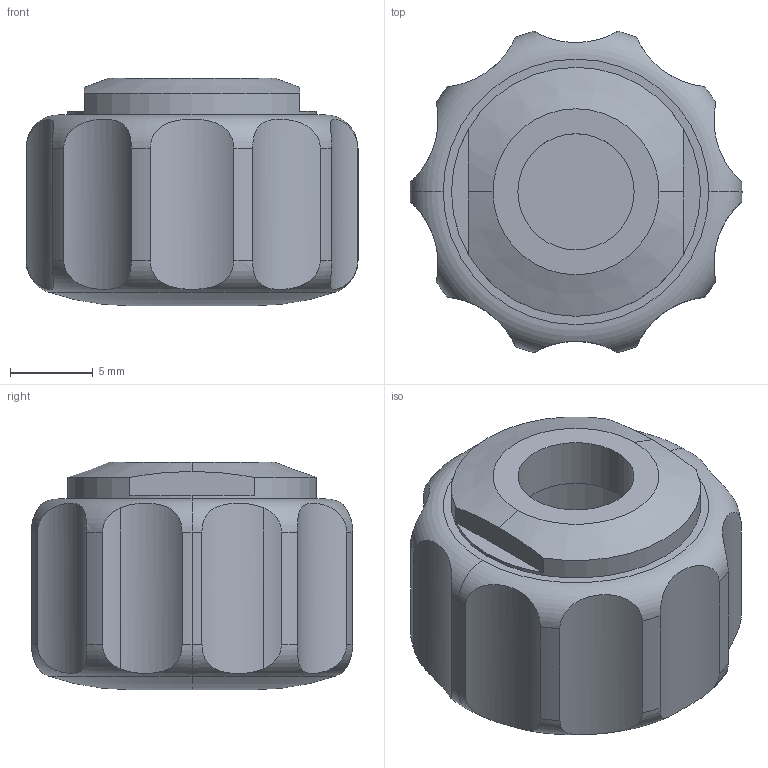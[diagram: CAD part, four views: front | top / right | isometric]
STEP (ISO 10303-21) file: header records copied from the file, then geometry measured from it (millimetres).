
FILE_DESCRIPTION (( 'STEP AP203' ), '1' );
FILE_NAME ('Easyknob Dummy M6.step', '2015-01-22T09:40:58', ( 'ThinkStation' ), ( '' ), 'SwSTEP 2.0', 'SolidWorks 2015', '' );
FILE_SCHEMA (( 'CONFIG_CONTROL_DESIGN' ));
Length unit declared in the file: millimetre
Products named in the file (1): Easyknob Dummy M6
Bounding box: 20 x 19.36 x 13.7 mm (x, y, z)
Volume: 2168.6 mm3; surface area: 1862.9 mm2
Topology: 1 solids, 1 shells, 46 faces, 119 edges, 78 vertices
Faces by surface type: cylinder 29, plane 9, torus 6, cone 2
Entity records: 1974 total; most frequent: CARTESIAN_POINT 772, DIRECTION 239, ORIENTED_EDGE 238, EDGE_CURVE 119, AXIS2_PLACEMENT_3D 101, VERTEX_POINT 78, CIRCLE 54, EDGE_LOOP 49
